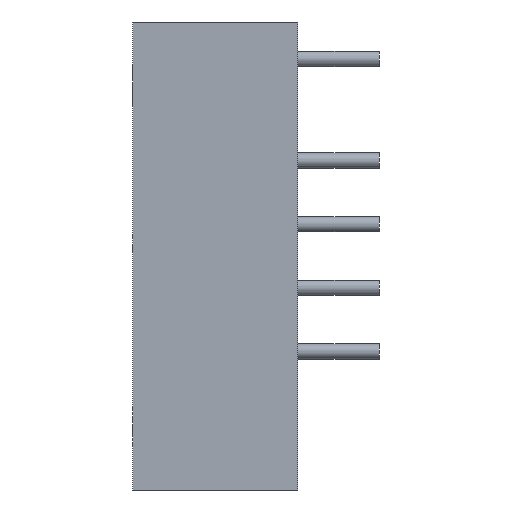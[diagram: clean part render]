
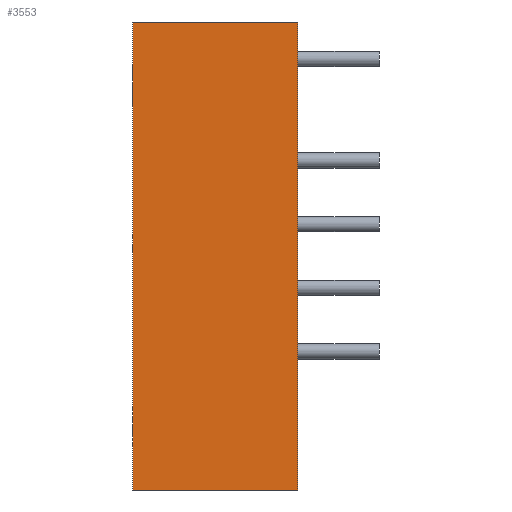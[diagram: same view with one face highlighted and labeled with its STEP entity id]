
A CAD part, left-side view. The second image highlights one B-rep face of the part: STEP entity #3553.
In plain terms, the highlighted planar face has unit normal (-1, 0, 0).
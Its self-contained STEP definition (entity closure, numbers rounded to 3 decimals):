
#130 = EDGE_CURVE ( 'NONE', #4326, #3765, #7149, .T. ) ;
#305 = ORIENTED_EDGE ( 'NONE', *, *, #2511, .F. ) ;
#436 = ORIENTED_EDGE ( 'NONE', *, *, #3826, .T. ) ;
#787 = CARTESIAN_POINT ( 'NONE',  ( -30.6, 6.5, 18.4 ) ) ;
#1161 = ORIENTED_EDGE ( 'NONE', *, *, #5313, .F. ) ;
#1306 = CARTESIAN_POINT ( 'NONE',  ( -30.6, 6.5, 18.4 ) ) ;
#1419 = LINE ( 'NONE', #1823, #7426 ) ;
#1616 = FACE_OUTER_BOUND ( 'NONE', #4901, .T. ) ;
#1701 = LINE ( 'NONE', #1306, #7402 ) ;
#1712 = DIRECTION ( 'NONE',  ( 1., 0., 0. ) ) ;
#1823 = CARTESIAN_POINT ( 'NONE',  ( -30.6, 6.5, 18.4 ) ) ;
#1907 = CARTESIAN_POINT ( 'NONE',  ( -30.6, 6.5, -18.4 ) ) ;
#1944 = CARTESIAN_POINT ( 'NONE',  ( -30.6, -6.5, -18.4 ) ) ;
#2107 = CARTESIAN_POINT ( 'NONE',  ( -30.6, -6.5, 18.4 ) ) ;
#2511 = EDGE_CURVE ( 'NONE', #5769, #3765, #1419, .T. ) ;
#2590 = DIRECTION ( 'NONE',  ( 0., 0., 1. ) ) ;
#3011 = CARTESIAN_POINT ( 'NONE',  ( -30.6, 6.5, -18.4 ) ) ;
#3236 = PLANE ( 'NONE',  #3524 ) ;
#3339 = VERTEX_POINT ( 'NONE', #3011 ) ;
#3524 = AXIS2_PLACEMENT_3D ( 'NONE', #6955, #1712, #7506 ) ;
#3553 = ADVANCED_FACE ( 'NONE', ( #1616 ), #3236, .F. ) ;
#3765 = VERTEX_POINT ( 'NONE', #3779 ) ;
#3779 = CARTESIAN_POINT ( 'NONE',  ( -30.6, -6.5, 18.4 ) ) ;
#3826 = EDGE_CURVE ( 'NONE', #3339, #4326, #4753, .T. ) ;
#4326 = VERTEX_POINT ( 'NONE', #1944 ) ;
#4555 = DIRECTION ( 'NONE',  ( 0., -1., 0. ) ) ;
#4753 = LINE ( 'NONE', #1907, #6335 ) ;
#4901 = EDGE_LOOP ( 'NONE', ( #5744, #305, #1161, #436 ) ) ;
#5313 = EDGE_CURVE ( 'NONE', #3339, #5769, #1701, .T. ) ;
#5744 = ORIENTED_EDGE ( 'NONE', *, *, #130, .T. ) ;
#5769 = VERTEX_POINT ( 'NONE', #787 ) ;
#5839 = DIRECTION ( 'NONE',  ( 0., -1., 0. ) ) ;
#6335 = VECTOR ( 'NONE', #5839, 1000. ) ;
#6574 = DIRECTION ( 'NONE',  ( 0., 0., 1. ) ) ;
#6955 = CARTESIAN_POINT ( 'NONE',  ( -30.6, 6.5, 18.4 ) ) ;
#7149 = LINE ( 'NONE', #2107, #7666 ) ;
#7402 = VECTOR ( 'NONE', #2590, 1000. ) ;
#7426 = VECTOR ( 'NONE', #4555, 1000. ) ;
#7506 = DIRECTION ( 'NONE',  ( 0., 0., -1. ) ) ;
#7666 = VECTOR ( 'NONE', #6574, 1000. ) ;
